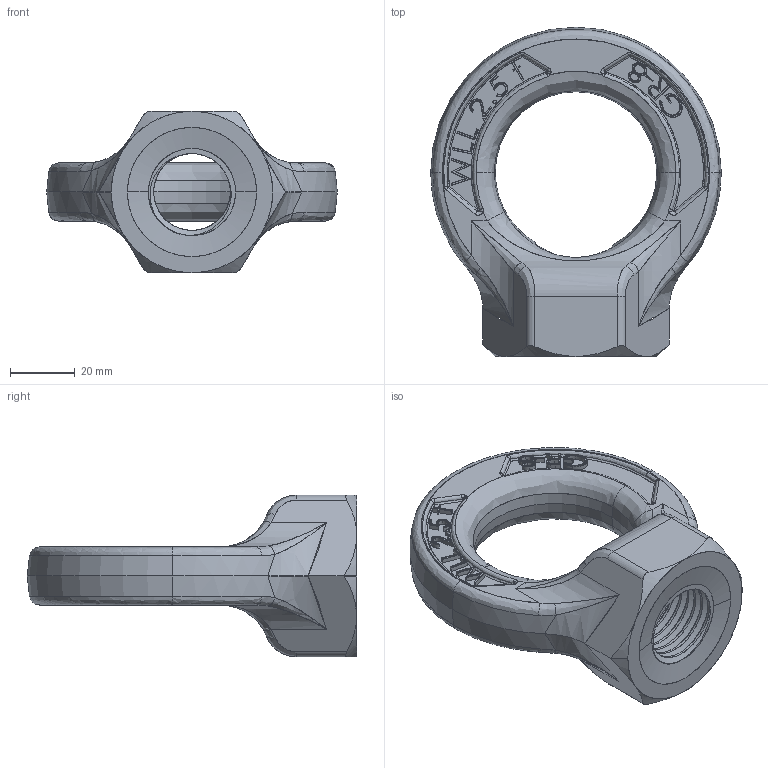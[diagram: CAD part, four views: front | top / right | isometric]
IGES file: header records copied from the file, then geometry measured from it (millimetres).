
Start section: SolidWorks IGES file using analytic representation for surfaces
Global section: file name: C:\Users\Brenton\Documents\Townley\HTEN\HTEN27\HTEN27.IGS; native system: SolidWorks 2012; preprocessor: SolidWorks 2012; author: Brenton; date: 150420.133357; units: millimetre
Bounding box: 90 x 102 x 50 mm (x, y, z)
Surface area: 24544.8 mm2 (no closed solid volume)
Topology: 0 solids, 0 shells, 789 faces, 8588 edges, 8558 vertices
Faces by surface type: bspline 510, revolution 279
